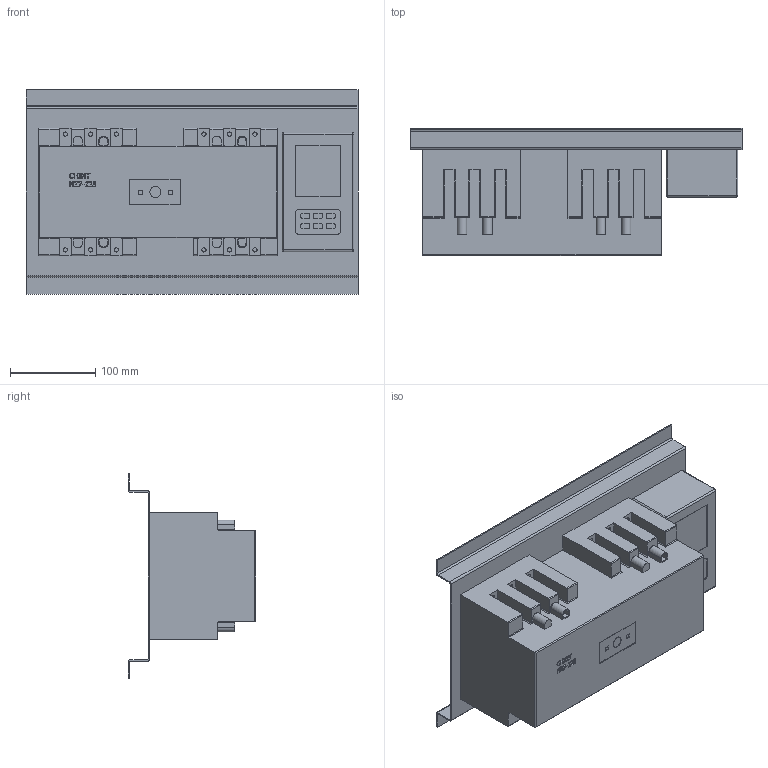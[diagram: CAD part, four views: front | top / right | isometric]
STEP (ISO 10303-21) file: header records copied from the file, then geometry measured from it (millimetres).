
FILE_DESCRIPTION(/* description */ ('','CAx-IF Rec.Pracs.---Representation and Presentation of Product Manufacturing Information (PMI)---3.8---2014-02-18'),/* implementation_level */ '2;1');
FILE_NAME(/* name */ 'C:\Users\ILYA\Desktop\NZ7\NZ7-125(3P)\NZ7-125(3P).stp',/* time_stamp */ '2017-08-15T21:13:25+03:00',/* author */ ('ILYA'),/* organization */ (''),/* preprocessor_version */ 'ST-DEVELOPER v16.1',/* originating_system */ 'Autodesk Inventor 2016',/* authorisation */ '');
FILE_SCHEMA (('AP242_MANAGED_MODEL_BASED_3D_ENGINEERING_MIM_LF { 1 0 10303 442 1 1 4 }'));
Length unit declared in the file: millimetre
Products named in the file (1): NZ7-125(3P)
Bounding box: 390 x 150 x 240 mm (x, y, z)
Volume: 5145466 mm3; surface area: 394208.7 mm2
Topology: 1 solids, 1 shells, 481 faces, 1275 edges, 842 vertices
Faces by surface type: plane 308, cylinder 128, bspline 41, sphere 4
Full cylindrical faces by diameter (mm): 5 x12, 13 x1
Entity records: 15210 total; most frequent: CARTESIAN_POINT 3242, ORIENTED_EDGE 2524, DIRECTION 2306, EDGE_CURVE 1262, LINE 936, VECTOR 936, VERTEX_POINT 842, AXIS2_PLACEMENT_3D 685
